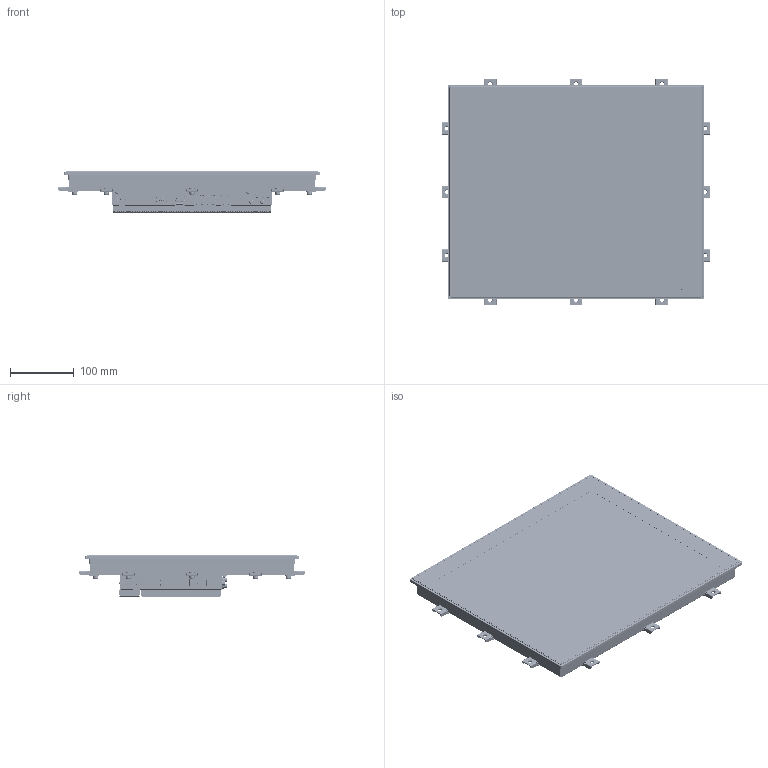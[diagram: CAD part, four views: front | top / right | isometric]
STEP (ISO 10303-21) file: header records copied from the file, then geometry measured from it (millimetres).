
FILE_DESCRIPTION((''),'2;1');
FILE_NAME('AP4C-170','2026-06-02T12:54:08',('gijyu181'),(''),'CREO PARAMETRIC BY PTC INC, 2018050','CREO PARAMETRIC BY PTC INC, 2018050','');
FILE_SCHEMA(('CONFIG_CONTROL_DESIGN','SHAPE_APPEARANCE_LAYERS_GROUPS'));
Products named in the file (1): AP4C-170
Bounding box: 422 x 356 x 64.87 mm (x, y, z)
Volume: 1944179.8 mm3; surface area: 1304607.8 mm2
Topology: 24 solids, 120 shells, 33123 faces, 95252 edges, 62849 vertices
Faces by surface type: plane 23003, cylinder 7366, extrusion 1462, cone 415, bspline 370, torus 345, sphere 150, revolution 12
Entity records: 1255184 total; most frequent: CARTESIAN_POINT 237664, ORIENTED_EDGE 189480, DIRECTION 170575, EDGE_CURVE 95168, VECTOR 74925, LINE 73463, VERTEX_POINT 62850, AXIS2_PLACEMENT_3D 47819
